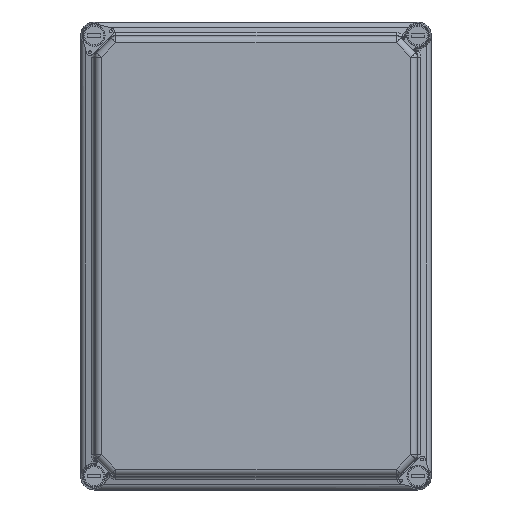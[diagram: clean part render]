
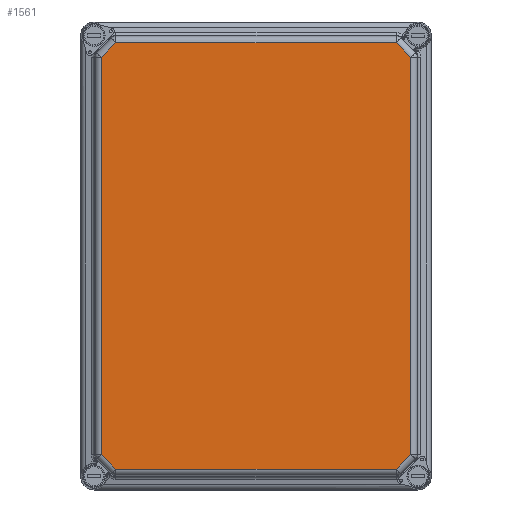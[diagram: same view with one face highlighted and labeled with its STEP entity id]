
A CAD part, top view. The second image highlights one B-rep face of the part: STEP entity #1561.
In plain terms, the highlighted planar face has unit normal (0, 0, 1).
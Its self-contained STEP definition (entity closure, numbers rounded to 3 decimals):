
#1561=ADVANCED_FACE('',(#4847),#4848,.T.);
#4847=FACE_OUTER_BOUND('',#11518,.T.);
#4848=PLANE('',#11519);
#11518=EDGE_LOOP('',(#24537,#24538,#24539,#24540,#24541,#24542,#24543,#24544));
#11519=AXIS2_PLACEMENT_3D('',#24545,#24546,#24547);
#24537=ORIENTED_EDGE('',*,*,#29851,.T.);
#24538=ORIENTED_EDGE('',*,*,#29852,.F.);
#24539=ORIENTED_EDGE('',*,*,#29853,.T.);
#24540=ORIENTED_EDGE('',*,*,#29854,.F.);
#24541=ORIENTED_EDGE('',*,*,#29855,.T.);
#24542=ORIENTED_EDGE('',*,*,#29856,.F.);
#24543=ORIENTED_EDGE('',*,*,#29857,.T.);
#24544=ORIENTED_EDGE('',*,*,#29850,.F.);
#24545=CARTESIAN_POINT('',(0.0,0.,183.0));
#24546=DIRECTION('',(0.0,-0.0,1.0));
#24547=DIRECTION('',(0.0,1.0,0.0));
#29850=EDGE_CURVE('',#36085,#36088,#36090,.T.);
#29851=EDGE_CURVE('',#36085,#36091,#36092,.T.);
#29852=EDGE_CURVE('',#36093,#36091,#36094,.T.);
#29853=EDGE_CURVE('',#36093,#36095,#36096,.T.);
#29854=EDGE_CURVE('',#36097,#36095,#36098,.T.);
#29855=EDGE_CURVE('',#36097,#36099,#36100,.T.);
#29856=EDGE_CURVE('',#36101,#36099,#36102,.T.);
#29857=EDGE_CURVE('',#36101,#36088,#36103,.T.);
#36085=VERTEX_POINT('',#48263);
#36088=VERTEX_POINT('',#48266);
#36090=LINE('',#48268,#48269);
#36091=VERTEX_POINT('',#48270);
#36092=LINE('',#48271,#48272);
#36093=VERTEX_POINT('',#48273);
#36094=LINE('',#48274,#48275);
#36095=VERTEX_POINT('',#48276);
#36096=LINE('',#48277,#48278);
#36097=VERTEX_POINT('',#48279);
#36098=LINE('',#48280,#48281);
#36099=VERTEX_POINT('',#48282);
#36100=LINE('',#48283,#48284);
#36101=VERTEX_POINT('',#48285);
#36102=LINE('',#48286,#48287);
#36103=LINE('',#48288,#48289);
#48263=CARTESIAN_POINT('',(107.747,164.051,183.0));
#48266=CARTESIAN_POINT('',(119.051,152.747,183.0));
#48268=CARTESIAN_POINT('',(107.747,164.051,183.0));
#48269=VECTOR('',#54470,15.986);
#48270=CARTESIAN_POINT('',(-107.747,164.051,183.0));
#48271=CARTESIAN_POINT('',(107.747,164.051,183.0));
#48272=VECTOR('',#54471,215.495);
#48273=CARTESIAN_POINT('',(-119.051,152.747,183.0));
#48274=CARTESIAN_POINT('',(-119.051,152.747,183.0));
#48275=VECTOR('',#54472,15.986);
#48276=CARTESIAN_POINT('',(-119.051,-152.747,183.0));
#48277=CARTESIAN_POINT('',(-119.051,152.747,183.0));
#48278=VECTOR('',#54473,305.495);
#48279=CARTESIAN_POINT('',(-107.747,-164.051,183.0));
#48280=CARTESIAN_POINT('',(-107.747,-164.051,183.0));
#48281=VECTOR('',#54474,15.986);
#48282=CARTESIAN_POINT('',(107.747,-164.051,183.0));
#48283=CARTESIAN_POINT('',(-107.747,-164.051,183.0));
#48284=VECTOR('',#54475,215.495);
#48285=CARTESIAN_POINT('',(119.051,-152.747,183.0));
#48286=CARTESIAN_POINT('',(119.051,-152.747,183.0));
#48287=VECTOR('',#54476,15.986);
#48288=CARTESIAN_POINT('',(119.051,-152.747,183.0));
#48289=VECTOR('',#54477,305.495);
#54470=DIRECTION('',(0.707,-0.707,0.0));
#54471=DIRECTION('',(-1.0,0.,0.0));
#54472=DIRECTION('',(0.707,0.707,0.0));
#54473=DIRECTION('',(0.,-1.0,0.0));
#54474=DIRECTION('',(-0.707,0.707,0.0));
#54475=DIRECTION('',(1.0,0.,0.0));
#54476=DIRECTION('',(-0.707,-0.707,0.0));
#54477=DIRECTION('',(0.,1.0,0.0));
